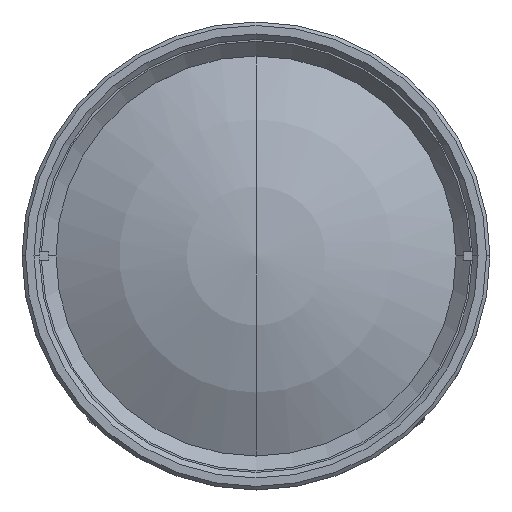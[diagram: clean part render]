
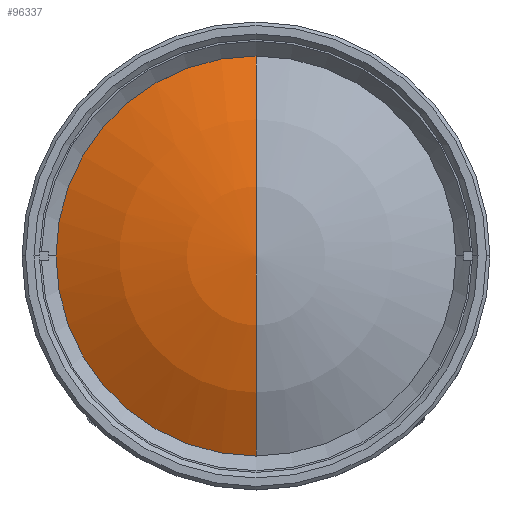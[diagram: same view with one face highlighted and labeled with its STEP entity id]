
A CAD part, top view. The second image highlights one B-rep face of the part: STEP entity #96337.
In plain terms, the highlighted spherical face has radius 34.835 mm.
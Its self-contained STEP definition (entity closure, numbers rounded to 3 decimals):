
#708 = AXIS2_PLACEMENT_3D ( 'NONE', #133630, #129777, #155610 ) ;
#6872 = CARTESIAN_POINT ( 'NONE',  ( 14.308, 0., 0. ) ) ;
#7381 = EDGE_CURVE ( 'NONE', #172815, #240360, #238617, .T. ) ;
#16805 = CARTESIAN_POINT ( 'NONE',  ( -16.041, 17.1, 0. ) ) ;
#16894 = ORIENTED_EDGE ( 'NONE', *, *, #221772, .T. ) ;
#24080 = ORIENTED_EDGE ( 'NONE', *, *, #7381, .F. ) ;
#30975 = AXIS2_PLACEMENT_3D ( 'NONE', #6872, #84574, #126027 ) ;
#34988 = CARTESIAN_POINT ( 'NONE',  ( -16.041, 0., 0. ) ) ;
#56424 = AXIS2_PLACEMENT_3D ( 'NONE', #34988, #129627, #90712 ) ;
#84574 = DIRECTION ( 'NONE',  ( 0., 0., -1. ) ) ;
#90712 = DIRECTION ( 'NONE',  ( 0., -1., 0. ) ) ;
#96337 = ADVANCED_FACE ( 'NONE', ( #127222 ), #233395, .T. ) ;
#98020 = CARTESIAN_POINT ( 'NONE',  ( -16.041, 0., 0. ) ) ;
#109563 = CIRCLE ( 'NONE', #30975, 34.835 ) ;
#119119 = ORIENTED_EDGE ( 'NONE', *, *, #197475, .F. ) ;
#120356 = EDGE_LOOP ( 'NONE', ( #24080, #16894, #119119 ) ) ;
#126027 = DIRECTION ( 'NONE',  ( 0., 1., 0. ) ) ;
#127222 = FACE_OUTER_BOUND ( 'NONE', #120356, .T. ) ;
#129627 = DIRECTION ( 'NONE',  ( 1., 0., 0. ) ) ;
#129777 = DIRECTION ( 'NONE',  ( 1., 0., 0. ) ) ;
#133630 = CARTESIAN_POINT ( 'NONE',  ( 14.308, 0., 0. ) ) ;
#137055 = CARTESIAN_POINT ( 'NONE',  ( -16.041, 0., -17.1 ) ) ;
#138974 = VERTEX_POINT ( 'NONE', #16805 ) ;
#155610 = DIRECTION ( 'NONE',  ( 0., 1., 0. ) ) ;
#172815 = VERTEX_POINT ( 'NONE', #232799 ) ;
#177095 = DIRECTION ( 'NONE',  ( 1., 0., 0. ) ) ;
#193362 = CIRCLE ( 'NONE', #226466, 17.1 ) ;
#197475 = EDGE_CURVE ( 'NONE', #240360, #138974, #193362, .T. ) ;
#221772 = EDGE_CURVE ( 'NONE', #172815, #138974, #109563, .T. ) ;
#226466 = AXIS2_PLACEMENT_3D ( 'NONE', #98020, #177095, #256115 ) ;
#232799 = CARTESIAN_POINT ( 'NONE',  ( -16.041, -17.1, 0. ) ) ;
#233395 = SPHERICAL_SURFACE ( 'NONE', #708, 34.835 ) ;
#238617 = CIRCLE ( 'NONE', #56424, 17.1 ) ;
#240360 = VERTEX_POINT ( 'NONE', #137055 ) ;
#256115 = DIRECTION ( 'NONE',  ( 0., -1., 0. ) ) ;
